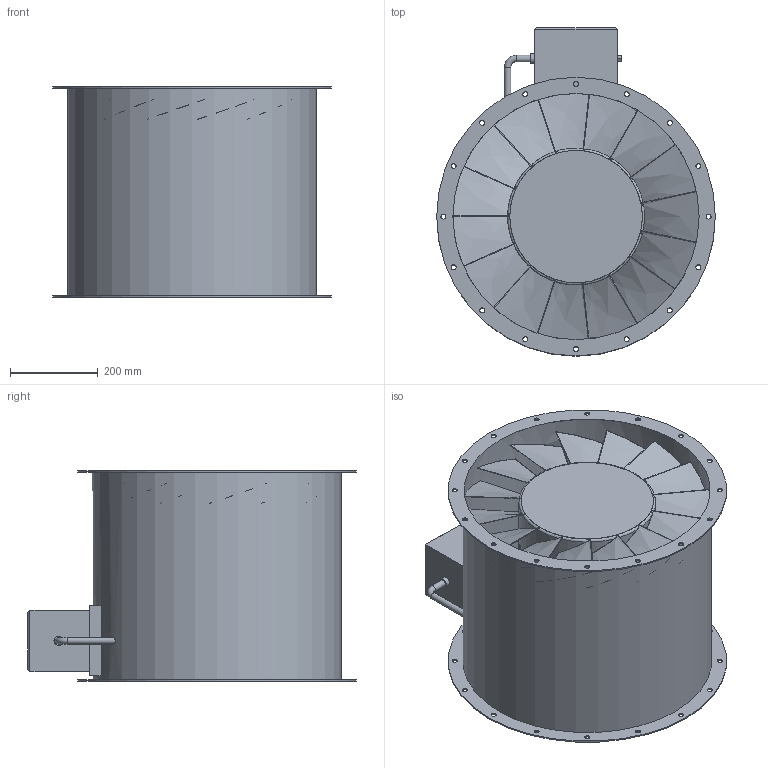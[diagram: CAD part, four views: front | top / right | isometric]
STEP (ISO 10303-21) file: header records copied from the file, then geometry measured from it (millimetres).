
FILE_DESCRIPTION(/* description */ (''),/* implementation_level */ '2;1');
FILE_NAME(/* name */ 'Z:\Output\B_AMD_560-4_2.2_F400-03224-030.stp',/* time_stamp */ '2021-12-10T10:13:20+01:00',/* author */ ('engineering1'),/* organization */ (''),/* preprocessor_version */ 'ST-DEVELOPER v17.2',/* originating_system */ 'Autodesk Inventor 2019',/* authorisation */ '');
FILE_SCHEMA (('AUTOMOTIVE_DESIGN { 1 0 10303 214 3 1 1 }'));
Length unit declared in the file: millimetre
Products named in the file (1): AMD W
Bounding box: 636 x 749.6 x 480 mm (x, y, z)
Volume: 42645142.1 mm3; surface area: 3683227.6 mm2
Topology: 43 solids, 43 shells, 450 faces, 1065 edges, 675 vertices
Faces by surface type: plane 239, cylinder 149, bspline 45, torus 17
Full cylindrical faces by diameter (mm): 11.5 x32, 15 x3, 21 x1, 312.222 x1, 562 x1, 568 x1, 636 x2
Entity records: 14283 total; most frequent: CARTESIAN_POINT 4003, ORIENTED_EDGE 2130, DIRECTION 1980, EDGE_CURVE 1065, AXIS2_PLACEMENT_3D 721, VERTEX_POINT 675, EDGE_LOOP 539, LINE 538
